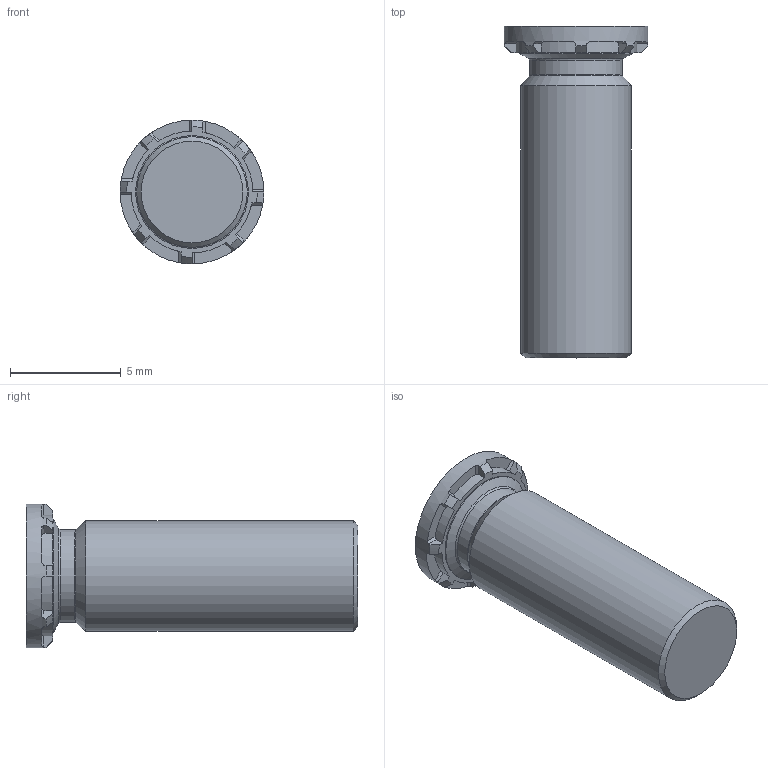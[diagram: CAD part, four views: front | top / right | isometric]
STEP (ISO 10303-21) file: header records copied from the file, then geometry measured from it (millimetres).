
FILE_DESCRIPTION(/* description */ (''),/* implementation_level */ '2;1');
FILE_NAME(/* name */ 'C:\Users\keval.kumar\Desktop\Fastit\Clinch Screw- FH Range\M5\Clinch Screw-FH Range_M5x15.stp',/* time_stamp */ '2024-03-12T12:02:34+06:00',/* author */ ('keval.kumar'),/* organization */ (''),/* preprocessor_version */ 'ST-DEVELOPER v18.1',/* originating_system */ 'Autodesk Inventor 2022',/* authorisation */ '');
FILE_SCHEMA (('AUTOMOTIVE_DESIGN { 1 0 10303 214 3 1 1 }'));
Length unit declared in the file: millimetre
Products named in the file (1): Clinch Screw-FH Range_M5x15
Bounding box: 6.5 x 15 x 6.5 mm (x, y, z)
Volume: 300.4 mm3; surface area: 308.7 mm2
Topology: 1 solids, 1 shells, 68 faces, 193 edges, 128 vertices
Faces by surface type: plane 43, cylinder 12, cone 11, torus 2
Full cylindrical faces by diameter (mm): 4.2 x1, 5 x1, 5.1 x1, 6.5 x1
Entity records: 2286 total; most frequent: DIRECTION 413, CARTESIAN_POINT 406, ORIENTED_EDGE 386, EDGE_CURVE 193, AXIS2_PLACEMENT_3D 159, VERTEX_POINT 128, LINE 95, VECTOR 95
